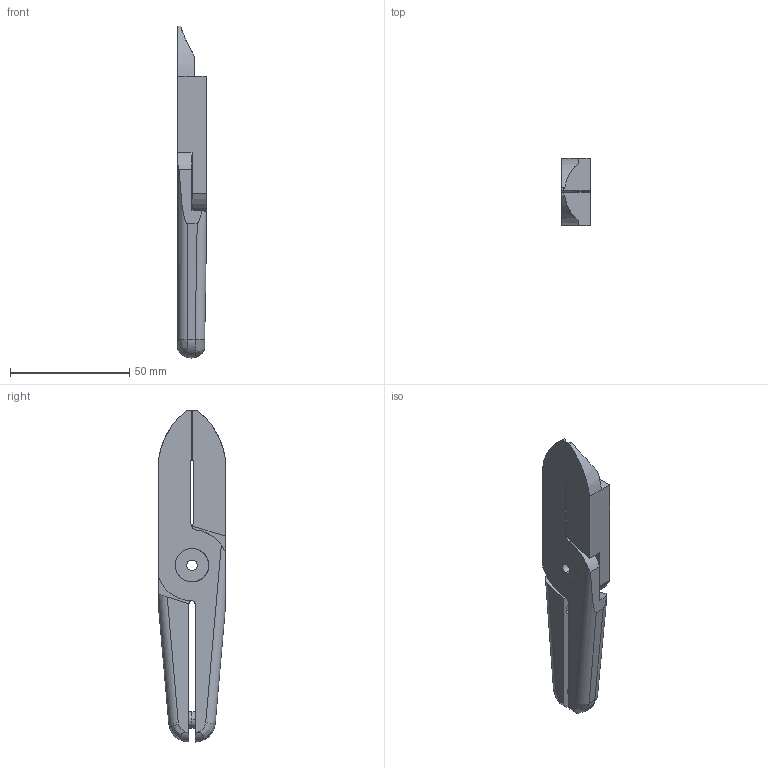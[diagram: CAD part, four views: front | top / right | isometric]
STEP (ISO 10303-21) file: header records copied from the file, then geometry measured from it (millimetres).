
FILE_DESCRIPTION (( 'STEP AP214' ), '1' );
FILE_NAME ('0609.STEP', '2012-03-27T19:42:33', ( 'User' ), ( 'EMI' ), 'SwSTEP 2.0', 'SolidWorks 2009', '' );
FILE_SCHEMA (( 'AUTOMOTIVE_DESIGN' ));
Length unit declared in the file: millimetre
Products named in the file (1): 0609
Bounding box: 12 x 28 x 139 mm (x, y, z)
Volume: 32617.1 mm3; surface area: 14526.6 mm2
Topology: 3 solids, 3 shells, 85 faces, 219 edges, 144 vertices
Faces by surface type: plane 42, cylinder 38, bspline 5
Entity records: 3455 total; most frequent: CARTESIAN_POINT 1382, ORIENTED_EDGE 438, DIRECTION 411, EDGE_CURVE 219, AXIS2_PLACEMENT_3D 148, VERTEX_POINT 144, VECTOR 115, LINE 115
